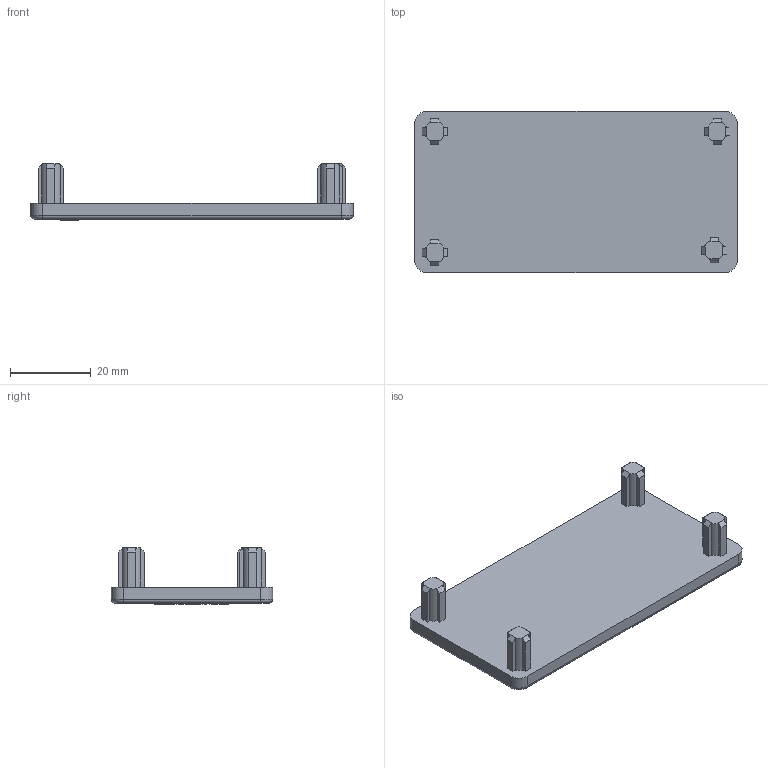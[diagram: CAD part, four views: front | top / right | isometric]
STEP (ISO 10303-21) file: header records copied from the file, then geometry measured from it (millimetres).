
FILE_DESCRIPTION((''),'2;1');
FILE_NAME('X:\Ritarkiv\STEP-Carryline Standarddelar\100-2020.stp','2009-11-09T07:49:52',('marcus'),(''),'Autodesk Inventor 2010','Autodesk Inventor 2010','');
FILE_SCHEMA(('AUTOMOTIVE_DESIGN { 1 0 10303 214 1 1 1 1 }'));
Length unit declared in the file: millimetre
Products named in the file (1): 100-2020
Bounding box: 80 x 40 x 13.9 mm (x, y, z)
Volume: 13690.4 mm3; surface area: 8074.6 mm2
Topology: 1 solids, 1 shells, 230 faces, 628 edges, 416 vertices
Faces by surface type: plane 144, bspline 58, cylinder 24, torus 4
Entity records: 7740 total; most frequent: CARTESIAN_POINT 2203, ORIENTED_EDGE 1256, DIRECTION 942, EDGE_CURVE 628, VECTOR 428, LINE 428, VERTEX_POINT 416, AXIS2_PLACEMENT_3D 257
